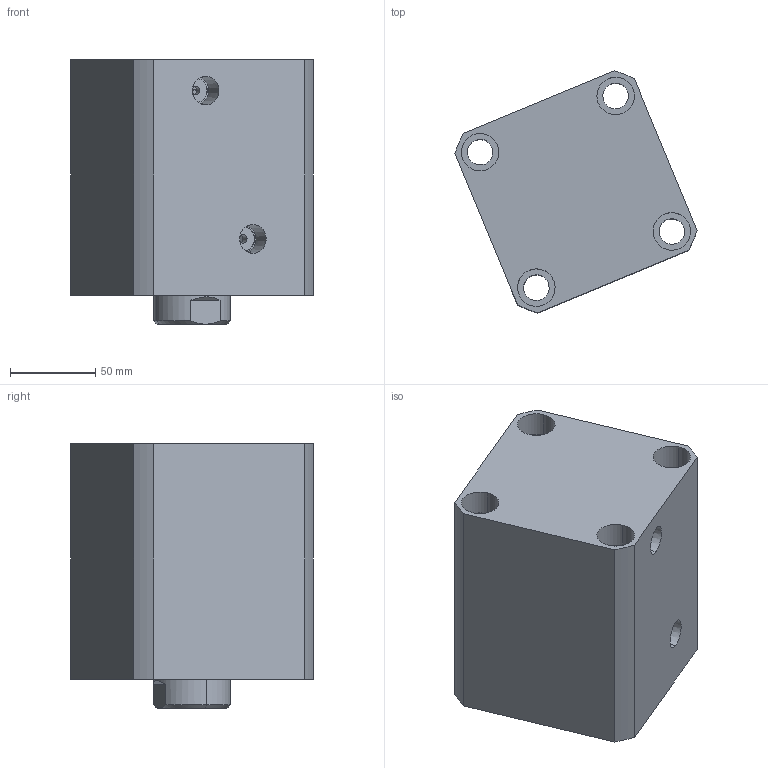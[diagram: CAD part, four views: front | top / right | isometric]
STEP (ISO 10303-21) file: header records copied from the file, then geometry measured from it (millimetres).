
FILE_DESCRIPTION (( 'STEP AP214' ), '1' );
FILE_NAME ('chtb-sd80x60n_asm.STEP', '2018-05-26T04:22:09', ( 'Windows' ), ( 'Microsoft' ), 'SwSTEP 2.0', 'SolidWorks 2015', '' );
FILE_SCHEMA (( 'AUTOMOTIVE_DESIGN' ));
Length unit declared in the file: millimetre
Products named in the file (4): CHTB-SD80X60NHSG; chtb-sd80x60n_asm; CHTB-SD80X60NBT; CHTB-SD80QG
Assembly tree (3 placements, depth 2):
  chtb-sd80x60n_asm
    CHTB-SD80X60NHSG
    CHTB-SD80QG
    CHTB-SD80X60NBT
Bounding box: 142.06 x 142.06 x 155 mm (x, y, z)
Volume: 1427302.3 mm3; surface area: 210829.2 mm2
Topology: 3 solids, 3 shells, 192 faces, 510 edges, 341 vertices
Faces by surface type: cylinder 103, plane 37, cone 20, torus 18, bspline 14
Entity records: 15144 total; most frequent: CARTESIAN_POINT 10435, ORIENTED_EDGE 1008, DIRECTION 889, EDGE_CURVE 504, AXIS2_PLACEMENT_3D 374, VERTEX_POINT 341, EDGE_LOOP 229, ADVANCED_FACE 192
